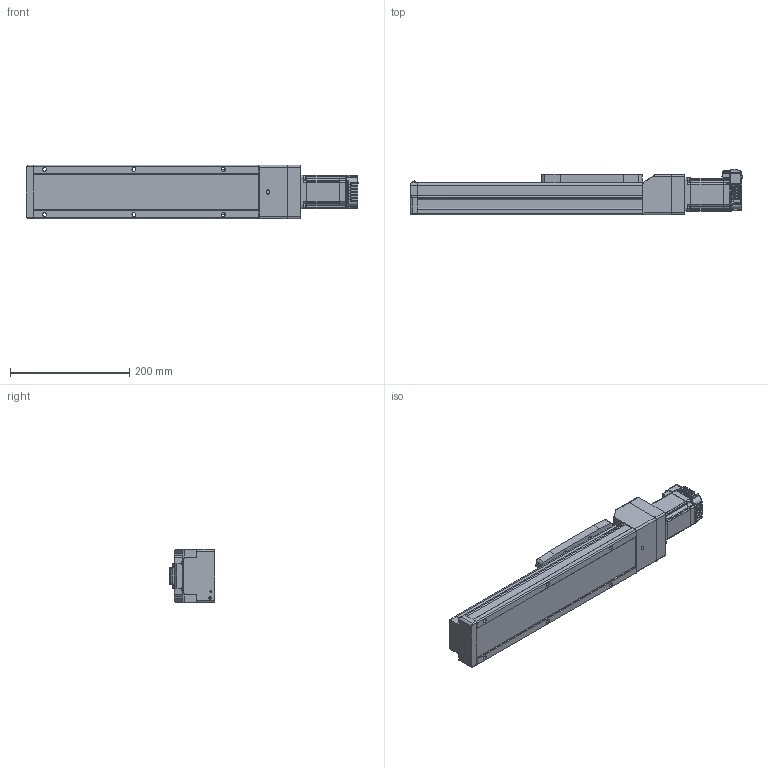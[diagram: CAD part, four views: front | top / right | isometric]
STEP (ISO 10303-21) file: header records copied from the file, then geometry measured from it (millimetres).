
FILE_DESCRIPTION (( 'STEP AP214' ), '1' );
FILE_NAME ('LEFS3(+)-40NM1仩-200-23L.STEP', '2023-06-02T05:03:41', ( '' ), ( '' ), 'SwSTEP 2.0', 'SolidWorks 2019', '' );
FILE_SCHEMA (( 'AUTOMOTIVE_DESIGN' ));
Length unit declared in the file: millimetre
Products named in the file (5): LEFS3(+)-40NM1_TABLE; LEFS3(+)-40NM1?_BODY_200; LEFS3(+)-40NM1_Motor Flange; LEFS3(+)-40NM1仩-200-23L; CM3(+)-23L50A_4-M4
Assembly tree (4 placements, depth 2):
  LEFS3(+)-40NM1仩-200-23L
    LEFS3(+)-40NM1?_BODY_200
    LEFS3(+)-40NM1_TABLE
    LEFS3(+)-40NM1_Motor Flange
    CM3(+)-23L50A_4-M4
Bounding box: 557.6 x 76.75 x 90 mm (x, y, z)
Volume: 2423542.5 mm3; surface area: 245851.2 mm2
Topology: 5 solids, 14 shells, 1646 faces, 4269 edges, 2640 vertices
Faces by surface type: plane 764, cylinder 511, bspline 133, cone 117, torus 74, sphere 47
Entity records: 55777 total; most frequent: CARTESIAN_POINT 13961, ORIENTED_EDGE 8388, DIRECTION 7810, EDGE_CURVE 4194, AXIS2_PLACEMENT_3D 2652, VERTEX_POINT 2640, LINE 2506, VECTOR 2506
